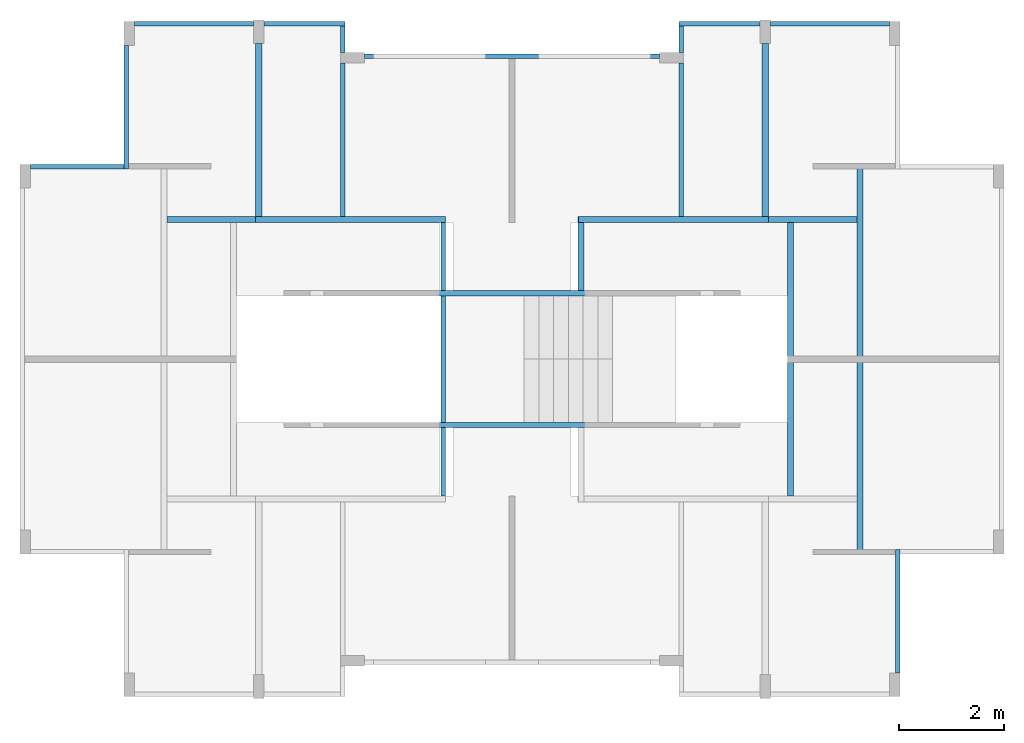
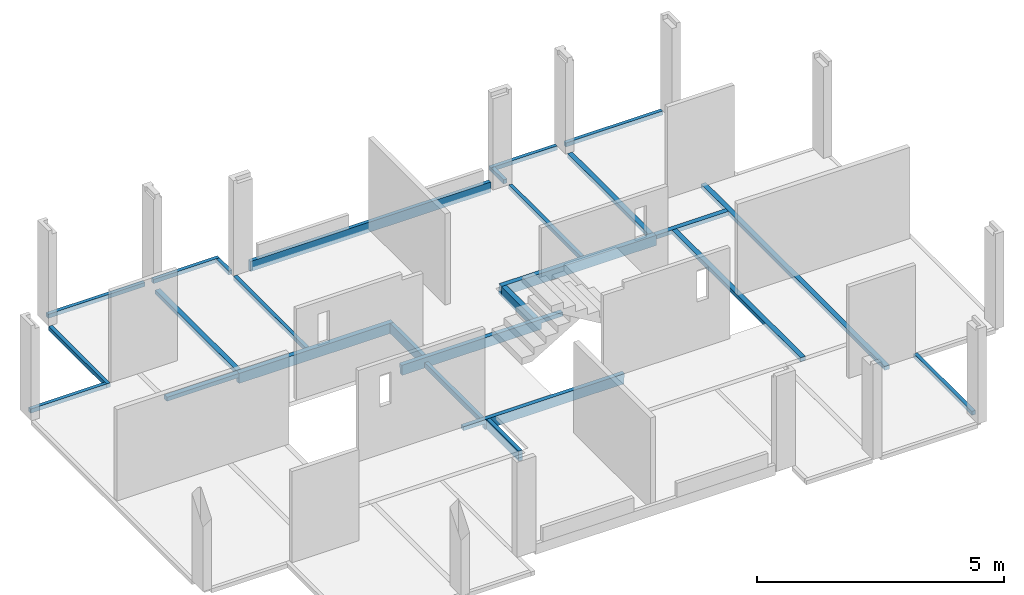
# One storey, part 2 of 6: 20 beams.
"""IFC4 building model written with IfcOpenShell, lengths in metres."""

from ifc_helpers import new_model, entity, si_unit, converted_unit, derived_unit, direction, frame, origin, place, context, subcontext, project, spatial, indexed_curve, outline, extrude, source, transform, mapped, material, type_object, type_shapes, element, save


model = new_model("IFC4")

# Units and contexts
model_context = context("Model", 3, precision=1e-05, world=origin(), true_north=direction((6.123031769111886e-17, 1.0)))
body_context = subcontext(model_context, "Body", "Model", "MODEL_VIEW")
ifc_project = project(units=[si_unit("LENGTHUNIT", "METRE"), si_unit("AREAUNIT", "SQUARE_METRE"), si_unit("VOLUMEUNIT", "CUBIC_METRE"), converted_unit("PLANEANGLEUNIT", "DEGREE", entity("IfcRatioMeasure", 0.017453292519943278), si_unit("PLANEANGLEUNIT", "RADIAN"), dimensions=[0, 0, 0, 0, 0, 0, 0]), si_unit("MASSUNIT", "GRAM", prefix="KILO"), derived_unit("MASSDENSITYUNIT", [(si_unit("MASSUNIT", "GRAM", prefix="KILO"), 1), (si_unit("LENGTHUNIT", "METRE"), -3)]), derived_unit("IONCONCENTRATIONUNIT", [(si_unit("MASSUNIT", "GRAM", prefix="KILO"), 1), (si_unit("LENGTHUNIT", "METRE"), -3)]), derived_unit("MOMENTOFINERTIAUNIT", [(si_unit("LENGTHUNIT", "METRE"), 4)]), si_unit("TIMEUNIT", "SECOND"), si_unit("FREQUENCYUNIT", "HERTZ"), si_unit("THERMODYNAMICTEMPERATUREUNIT", "DEGREE_CELSIUS"), derived_unit("THERMALTRANSMITTANCEUNIT", [(si_unit("MASSUNIT", "GRAM", prefix="KILO"), 1), (si_unit("THERMODYNAMICTEMPERATUREUNIT", "KELVIN"), -1), (si_unit("TIMEUNIT", "SECOND"), -3)]), derived_unit("THERMALCONDUCTANCEUNIT", [(si_unit("MASSUNIT", "GRAM", prefix="KILO"), 1), (si_unit("THERMODYNAMICTEMPERATUREUNIT", "KELVIN"), -1), (si_unit("TIMEUNIT", "SECOND"), -3), (si_unit("LENGTHUNIT", "METRE"), 1)]), derived_unit("VOLUMETRICFLOWRATEUNIT", [(si_unit("LENGTHUNIT", "METRE"), 3), (si_unit("TIMEUNIT", "SECOND"), -1)]), derived_unit("MASSFLOWRATEUNIT", [(si_unit("MASSUNIT", "GRAM", prefix="KILO"), 1), (si_unit("TIMEUNIT", "SECOND"), -1)]), derived_unit("ROTATIONALFREQUENCYUNIT", [(si_unit("TIMEUNIT", "SECOND"), -1)]), si_unit("ELECTRICCURRENTUNIT", "AMPERE"), si_unit("ELECTRICVOLTAGEUNIT", "VOLT"), si_unit("POWERUNIT", "WATT"), si_unit("FORCEUNIT", "NEWTON", prefix="KILO"), si_unit("ILLUMINANCEUNIT", "LUX"), si_unit("LUMINOUSFLUXUNIT", "LUMEN"), si_unit("LUMINOUSINTENSITYUNIT", "CANDELA"), derived_unit("USERDEFINED", [(si_unit("MASSUNIT", "GRAM", prefix="KILO"), -1), (si_unit("LENGTHUNIT", "METRE"), -2), (si_unit("TIMEUNIT", "SECOND"), 3), (si_unit("LUMINOUSFLUXUNIT", "LUMEN"), 1)]), derived_unit("USERDEFINED", [(si_unit("MASSUNIT", "GRAM", prefix="KILO"), 1), (si_unit("TIMEUNIT", "SECOND"), -3), (si_unit("LENGTHUNIT", "METRE"), 3), (si_unit("ELECTRICCURRENTUNIT", "AMPERE"), -2)]), derived_unit("SOUNDPOWERUNIT", [(si_unit("MASSUNIT", "GRAM", prefix="KILO"), 1), (si_unit("TIMEUNIT", "SECOND"), -3), (si_unit("LENGTHUNIT", "METRE"), 2)]), derived_unit("SOUNDPRESSUREUNIT", [(si_unit("MASSUNIT", "GRAM", prefix="KILO"), 1), (si_unit("LENGTHUNIT", "METRE"), -1), (si_unit("TIMEUNIT", "SECOND"), -2)]), derived_unit("LINEARVELOCITYUNIT", [(si_unit("LENGTHUNIT", "METRE"), 1), (si_unit("TIMEUNIT", "SECOND"), -1)]), si_unit("PRESSUREUNIT", "PASCAL"), derived_unit("USERDEFINED", [(si_unit("MASSUNIT", "GRAM", prefix="KILO"), 1), (si_unit("LENGTHUNIT", "METRE"), -2), (si_unit("TIMEUNIT", "SECOND"), -2)]), derived_unit("LINEARFORCEUNIT", [(si_unit("MASSUNIT", "GRAM", prefix="KILO"), 1), (si_unit("TIMEUNIT", "SECOND"), -2)]), derived_unit("PLANARFORCEUNIT", [(si_unit("MASSUNIT", "GRAM", prefix="KILO"), 1), (si_unit("LENGTHUNIT", "METRE"), -1), (si_unit("TIMEUNIT", "SECOND"), -2)]), derived_unit("SPECIFICHEATCAPACITYUNIT", [(si_unit("THERMODYNAMICTEMPERATUREUNIT", "KELVIN"), -1), (si_unit("LENGTHUNIT", "METRE"), 2), (si_unit("TIMEUNIT", "SECOND"), -2)]), derived_unit("HEATINGVALUEUNIT", [(si_unit("LENGTHUNIT", "METRE"), 2), (si_unit("TIMEUNIT", "SECOND"), -2)]), derived_unit("VAPORPERMEABILITYUNIT", [(si_unit("LENGTHUNIT", "METRE"), -1), (si_unit("TIMEUNIT", "SECOND"), 1)]), derived_unit("DYNAMICVISCOSITYUNIT", [(si_unit("MASSUNIT", "GRAM", prefix="KILO"), 1), (si_unit("TIMEUNIT", "SECOND"), -1), (si_unit("LENGTHUNIT", "METRE"), -1)]), derived_unit("THERMALEXPANSIONCOEFFICIENTUNIT", [(si_unit("THERMODYNAMICTEMPERATUREUNIT", "KELVIN"), -1)]), derived_unit("MODULUSOFELASTICITYUNIT", [(si_unit("MASSUNIT", "GRAM", prefix="KILO"), 1), (si_unit("LENGTHUNIT", "METRE"), -1), (si_unit("TIMEUNIT", "SECOND"), -2)]), derived_unit("ISOTHERMALMOISTURECAPACITYUNIT", [(si_unit("LENGTHUNIT", "METRE"), 3), (si_unit("MASSUNIT", "GRAM", prefix="KILO"), -1)]), derived_unit("MOISTUREDIFFUSIVITYUNIT", [(si_unit("TIMEUNIT", "SECOND"), -1), (si_unit("LENGTHUNIT", "METRE"), 2)])], contexts=[model_context])

# Site, building, storey
site_placement = place(None, origin())
site = spatial("IfcSite", under=ifc_project, at=site_placement, Name="Default", CompositionType="ELEMENT")
building_placement = place(site_placement, origin())
building = spatial("IfcBuilding", under=site, at=building_placement, Name="Las nubes", CompositionType="ELEMENT")
storey_placement = place(building_placement, frame((0.0, 0.0, 9.400000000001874)))
storey = spatial("IfcBuildingStorey", under=building, at=storey_placement, Name="PISO 5", CompositionType="ELEMENT", Elevation=9.400000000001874)

# Beams
ifc_material_1 = material(Name="Concrete - Cast-in-Place Concrete - 35 MPa", Category="Materials")
beam_type_1 = type_object("IfcBeamType", Name="M_Concrete-Rectangular Beam:(0.10x0.25)", PredefinedType="BEAM", material=ifc_material_1)
shared_shape_1 = source(origin(), body_context, "Body", "SweptSolid", [
    extrude(outline(indexed_curve([(-1.9263636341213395, -0.0977272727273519), (-1.4263636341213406, -0.0977272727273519), (-1.4213636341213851, -0.0977272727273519), (-1.3913636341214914, -0.0977272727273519), (-1.3063636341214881, -0.0977272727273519), (-1.166363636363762, -0.0977272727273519), (1.073636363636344, -0.0977272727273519), (1.208636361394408, -0.0977272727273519), (1.3236363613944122, -0.0977272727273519), (1.3286363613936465, -0.0977272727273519), (1.8336363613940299, -0.0977272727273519), (1.8336363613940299, 0.002272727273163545), (1.823636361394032, 0.002272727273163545), (1.823636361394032, 0.15227272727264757), (1.3336363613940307, 0.15227272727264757), (1.3236363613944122, 0.15227272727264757), (1.208636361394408, 0.15227272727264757), (-1.306363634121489, 0.15227272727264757), (-1.3913636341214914, 0.15227272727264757), (-1.4263636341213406, 0.15227272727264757), (-1.4263636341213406, 0.002272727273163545), (-1.9263636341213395, 0.0022727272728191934), (-1.9263636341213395, -0.0977272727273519)], self_intersect=False)), frame((9.368863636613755, -7.725000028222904, 9.302272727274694), z_axis=(0.0, 1.0, 0.0), x_axis=(1.0, 0.0, 0.0)), (0.0, 0.0, 1.0), 0.10000000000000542),
])
type_shapes(beam_type_1, [shared_shape_1])
beam_1_placement = place(storey_placement, frame((0.0, 0.0, -9.400000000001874)))
element("IfcBeam", 1, at=beam_1_placement, inside=storey, type_object=beam_type_1, material=ifc_material_1, Name="M_Concrete-Rectangular Beam:(0.10x0.25)", ObjectType="M_Concrete-Rectangular Beam:(0.10x0.25)", PredefinedType="BEAM", context=body_context, shape_type="MappedRepresentation", body=[
    mapped(shared_shape_1, transform((0.0, 0.0, 0.0), scale=1.0)),
])
beam_type_2 = type_object("IfcBeamType", Name="M_Concrete-Rectangular Beam:(0.10x0.25)", PredefinedType="BEAM", material=ifc_material_1)
shared_shape_2 = source(origin(), body_context, "Body", "SweptSolid", [
    extrude(outline(indexed_curve([(-0.11000000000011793, -2.285333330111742), (-0.00999999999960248, -2.285333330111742), (-0.00999999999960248, -1.785333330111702), (0.13999999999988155, -1.785333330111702), (0.13999999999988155, 0.8546666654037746), (0.13999999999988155, 0.9396666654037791), (0.13999999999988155, 0.9746666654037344), (0.13999999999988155, 1.4646666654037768), (-0.00999999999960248, 1.4646666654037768), (-0.009999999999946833, 1.4746666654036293), (-0.11000000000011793, 1.4746666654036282), (-0.11000000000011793, 0.9746666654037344), (-0.11000000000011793, 0.9396666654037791), (-0.11000000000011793, -0.6353333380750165), (-0.11000000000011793, -1.785333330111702), (-0.11000000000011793, -2.285333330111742)], self_intersect=False)), frame((8.917166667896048, -5.22500002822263, 9.290000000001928), z_axis=(0.0, 1.0, 0.0), x_axis=(0.0, 0.0, -1.0)), (0.0, 0.0, 1.0), 0.10000000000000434),
])
type_shapes(beam_type_2, [shared_shape_2])
beam_2_placement = place(storey_placement, frame((0.0, 0.0, -9.400000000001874)))
element("IfcBeam", 2, at=beam_2_placement, inside=storey, type_object=beam_type_2, material=ifc_material_1, Name="M_Concrete-Rectangular Beam:(0.10x0.25)", ObjectType="M_Concrete-Rectangular Beam:(0.10x0.25)", PredefinedType="BEAM", context=body_context, shape_type="MappedRepresentation", body=[
    mapped(shared_shape_2, transform((0.0, 0.0, 0.0), scale=1.0)),
])
ifc_material_2 = material(Name="Concrete, Cast In Situ", Category="Materials")
beam_type_3 = type_object("IfcBeamType", Name="M_Concrete-Rectangular Beam:(0.085x0.10)", PredefinedType="BEAM", material=ifc_material_2)
shared_shape_3 = source(origin(), body_context, "Body", "SweptSolid", [
    extrude(outline(indexed_curve([(-0.04250000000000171, -0.050000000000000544), (0.04250000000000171, -0.050000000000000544), (0.04250000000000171, 0.04999999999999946), (-0.04250000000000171, 0.04999999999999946), (-0.04250000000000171, -0.050000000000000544)], self_intersect=False)), frame((1.9899999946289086, -2.810000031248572, 9.350000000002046), z_axis=(0.0, 1.0, 0.0), x_axis=(-1.0, 0.0, 0.0)), (0.0, 0.0, 1.0), 2.3500000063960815),
])
type_shapes(beam_type_3, [shared_shape_3])
beam_3_placement = place(storey_placement, frame((0.0, 0.0, -9.400000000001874)))
element("IfcBeam", 3, at=beam_3_placement, inside=storey, type_object=beam_type_3, material=ifc_material_2, Name="M_Concrete-Rectangular Beam:(0.085x0.10)", ObjectType="M_Concrete-Rectangular Beam:(0.085x0.10)", PredefinedType="BEAM", context=body_context, shape_type="MappedRepresentation", body=[
    mapped(shared_shape_3, transform((0.0, 0.0, 0.0), scale=1.0)),
])
beam_type_4 = type_object("IfcBeamType", Name="M_Concrete-Rectangular Beam:(0.085x0.10)", PredefinedType="BEAM", material=ifc_material_2)
shared_shape_4 = source(origin(), body_context, "Body", "SweptSolid", [
    extrude(outline(indexed_curve([(-0.042500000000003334, -0.050000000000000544), (0.042499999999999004, -0.050000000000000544), (0.042499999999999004, 0.04999999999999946), (-0.042500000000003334, 0.04999999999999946), (-0.042500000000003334, -0.050000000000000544)], self_intersect=False)), frame((16.655000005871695, -12.390000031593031, 9.350000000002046), z_axis=(0.0, 1.0, 0.0), x_axis=(-1.0, 0.0, 0.0)), (0.0, 0.0, 1.0), 2.3500028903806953),
])
type_shapes(beam_type_4, [shared_shape_4])
beam_4_placement = place(storey_placement, frame((0.0, 0.0, -9.400000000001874)))
element("IfcBeam", 4, at=beam_4_placement, inside=storey, type_object=beam_type_4, material=ifc_material_2, Name="M_Concrete-Rectangular Beam:(0.085x0.10)", ObjectType="M_Concrete-Rectangular Beam:(0.085x0.10)", PredefinedType="BEAM", context=body_context, shape_type="MappedRepresentation", body=[
    mapped(shared_shape_4, transform((0.0, 0.0, 0.0), scale=1.0)),
])
beam_type_5 = type_object("IfcBeamType", Name="M_Concrete-Rectangular Beam:(0.085x0.25)", PredefinedType="BEAM", material=ifc_material_2)
shared_shape_5 = source(origin(), body_context, "Body", "SweptSolid", [
    extrude(outline(indexed_curve([(-0.04250000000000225, -0.12499999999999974), (0.04250000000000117, -0.12499999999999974), (0.04250000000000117, 0.12499999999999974), (-0.04250000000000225, 0.12499999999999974), (-0.04250000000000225, -0.12499999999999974)], self_intersect=False)), frame((8.020000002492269, -5.125000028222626, 9.275000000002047), z_axis=(0.0, 1.0, 0.0), x_axis=(-1.0, 0.0, 0.0)), (0.0, 0.0, 1.0), 1.3000000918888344),
    extrude(outline(indexed_curve([(-0.04250000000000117, -0.12499999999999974), (0.04250000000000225, -0.12499999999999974), (0.04250000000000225, 0.12499999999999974), (-0.04250000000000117, 0.12499999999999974), (-0.04250000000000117, -0.12499999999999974)], self_intersect=False)), frame((8.020000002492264, -9.025000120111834, 9.275000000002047), z_axis=(0.0, 1.0, 0.0), x_axis=(-1.0, 0.0, 0.0)), (0.0, 0.0, 1.0), 1.3000000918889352),
    extrude(outline(indexed_curve([(-0.04250000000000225, -0.06499999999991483), (0.04250000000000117, -0.06499999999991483), (0.042500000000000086, 0.06499999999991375), (-0.04250000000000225, 0.06499999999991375), (-0.04250000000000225, -0.06499999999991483)], self_intersect=False)), frame((8.020000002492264, -7.6250000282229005, 9.215000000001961), z_axis=(0.0, 1.0, 0.0), x_axis=(-1.0, 0.0, 0.0)), (0.0, 0.0, 1.0), 2.4000000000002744),
])
type_shapes(beam_type_5, [shared_shape_5])
beam_5_placement = place(storey_placement, frame((0.0, 0.0, -9.400000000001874)))
element("IfcBeam", 5, at=beam_5_placement, inside=storey, type_object=beam_type_5, material=ifc_material_2, Name="M_Concrete-Rectangular Beam:(0.085x0.25)", ObjectType="M_Concrete-Rectangular Beam:(0.085x0.25)", PredefinedType="BEAM", context=body_context, shape_type="MappedRepresentation", body=[
    mapped(shared_shape_5, transform((0.0, 0.0, 0.0), scale=1.0)),
])
beam_type_6 = type_object("IfcBeamType", Name="M_Concrete-Rectangular Beam:(0.115x0.25)", PredefinedType="BEAM", material=ifc_material_2)
shared_shape_6 = source(origin(), body_context, "Body", "SweptSolid", [
    extrude(outline(indexed_curve([(-0.12500000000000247, -0.05749999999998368), (0.124999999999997, -0.0575000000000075), (0.12500000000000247, 0.05749999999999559), (-0.124999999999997, 0.0575000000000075), (-0.12500000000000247, -0.05749999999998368)], self_intersect=False)), frame((8.062500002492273, -3.7674999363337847, 9.275000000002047), z_axis=(-1.0, 0.0, 0.0), x_axis=(0.0, 0.0, -1.0)), (0.0, 0.0, 1.0), 3.610000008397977),
])
type_shapes(beam_type_6, [shared_shape_6])
beam_6_placement = place(storey_placement, frame((0.0, 0.0, -9.400000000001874)))
element("IfcBeam", 6, at=beam_6_placement, inside=storey, type_object=beam_type_6, material=ifc_material_2, Name="M_Concrete-Rectangular Beam:(0.115x0.25)", ObjectType="M_Concrete-Rectangular Beam:(0.115x0.25)", PredefinedType="BEAM", context=body_context, shape_type="MappedRepresentation", body=[
    mapped(shared_shape_6, transform((0.0, 0.0, 0.0), scale=1.0)),
])
beam_type_7 = type_object("IfcBeamType", Name="M_Concrete-Rectangular Beam:(0.115x0.25)", PredefinedType="BEAM", material=ifc_material_2)
shared_shape_7 = source(origin(), body_context, "Body", "SweptSolid", [
    extrude(outline(indexed_curve([(-0.14499999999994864, -1.1205000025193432), (0.004999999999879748, -1.1205000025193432), (0.004999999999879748, -1.1155000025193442), (0.10500000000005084, -1.1155000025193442), (0.10500000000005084, -1.005500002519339), (0.10500000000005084, -1.000500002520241), (0.10500000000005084, 2.494500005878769), (0.004999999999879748, 2.494500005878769), (-0.14499999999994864, 2.494500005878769), (-0.14499999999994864, -1.005500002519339), (-0.14499999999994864, -1.1205000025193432)], self_intersect=False)), frame((11.698000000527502, -3.824999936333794, 9.295000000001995), z_axis=(0.0, 1.0, 0.0), x_axis=(0.0, 0.0, 1.0)), (0.0, 0.0, 1.0), 0.1150000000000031),
])
type_shapes(beam_type_7, [shared_shape_7])
beam_7_placement = place(storey_placement, frame((0.0, 0.0, -9.400000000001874)))
element("IfcBeam", 7, at=beam_7_placement, inside=storey, type_object=beam_type_7, material=ifc_material_2, Name="M_Concrete-Rectangular Beam:(0.115x0.25)", ObjectType="M_Concrete-Rectangular Beam:(0.115x0.25)", PredefinedType="BEAM", context=body_context, shape_type="MappedRepresentation", body=[
    mapped(shared_shape_7, transform((0.0, 0.0, 0.0), scale=1.0)),
])
beam_type_8 = type_object("IfcBeamType", Name="M_Concrete-Rectangular Beam:(0.115x0.25)", PredefinedType="BEAM", material=ifc_material_2)
shared_shape_8 = source(origin(), body_context, "Body", "SweptSolid", [
    extrude(outline(indexed_curve([(-0.05750000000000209, -0.12499999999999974), (0.05750000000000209, -0.12499999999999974), (0.05750000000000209, 0.12499999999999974), (-0.05750000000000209, 0.12499999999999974), (-0.05750000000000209, -0.12499999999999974)], self_intersect=False)), frame((10.634999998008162, -5.125000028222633, 9.275000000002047), z_axis=(0.0, 1.0, 0.0), x_axis=(-1.0, 0.0, 0.0)), (0.0, 0.0, 1.0), 1.3000000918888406),
])
type_shapes(beam_type_8, [shared_shape_8])
beam_8_placement = place(storey_placement, frame((0.0, 0.0, -9.400000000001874)))
element("IfcBeam", 8, at=beam_8_placement, inside=storey, type_object=beam_type_8, material=ifc_material_2, Name="M_Concrete-Rectangular Beam:(0.115x0.25)", ObjectType="M_Concrete-Rectangular Beam:(0.115x0.25)", PredefinedType="BEAM", context=body_context, shape_type="MappedRepresentation", body=[
    mapped(shared_shape_8, transform((0.0, 0.0, 0.0), scale=1.0)),
])
beam_type_9 = type_object("IfcBeamType", Name="M_Concrete-Rectangular Beam:(0.085x0.25)", PredefinedType="BEAM", material=ifc_material_1)
shared_shape_9 = source(origin(), body_context, "Body", "SweptSolid", [
    extrude(outline(indexed_curve([(-0.12500000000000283, -0.042499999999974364), (0.12499999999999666, -0.04250000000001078), (0.12500000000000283, 0.04249999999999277), (-0.12499999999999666, 0.04250000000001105), (-0.12500000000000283, -0.042499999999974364)], self_intersect=False)), frame((6.517499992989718, -0.6675000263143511, 9.425000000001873), z_axis=(1.0, 0.0, 0.0), x_axis=(0.0, 0.0, -1.0)), (0.0, 0.0, 1.0), 5.610000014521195),
])
type_shapes(beam_type_9, [shared_shape_9])
beam_9_placement = place(storey_placement, frame((0.0, 0.0, -9.400000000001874)))
element("IfcBeam", 9, at=beam_9_placement, inside=storey, type_object=beam_type_9, material=ifc_material_1, Name="M_Concrete-Rectangular Beam:(0.085x0.25)", ObjectType="M_Concrete-Rectangular Beam:(0.085x0.25)", PredefinedType="BEAM", context=body_context, shape_type="MappedRepresentation", body=[
    mapped(shared_shape_9, transform((0.0, 0.0, 0.0), scale=1.0)),
])
beam_type_10 = type_object("IfcBeamType", Name="M_Concrete-Rectangular Beam:(0.115x0.10)", PredefinedType="BEAM", material=ifc_material_2)
shared_shape_10 = source(origin(), body_context, "Body", "SweptSolid", [
    extrude(outline(indexed_curve([(-0.05750000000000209, -0.050000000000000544), (0.05750000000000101, -0.050000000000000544), (0.05750000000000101, 0.04999999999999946), (-0.05750000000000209, 0.04999999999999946), (-0.05750000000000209, -0.050000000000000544)], self_intersect=False)), frame((4.5099999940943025, -0.4300000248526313, 9.350000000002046), z_axis=(0.0, -1.0, 0.0), x_axis=(-1.0, 0.0, 0.0)), (0.0, 0.0, 1.0), 3.2799999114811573),
])
type_shapes(beam_type_10, [shared_shape_10])
beam_10_placement = place(storey_placement, frame((0.0, 0.0, -9.400000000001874)))
element("IfcBeam", 10, at=beam_10_placement, inside=storey, type_object=beam_type_10, material=ifc_material_2, Name="M_Concrete-Rectangular Beam:(0.115x0.10)", ObjectType="M_Concrete-Rectangular Beam:(0.115x0.10)", PredefinedType="BEAM", context=body_context, shape_type="MappedRepresentation", body=[
    mapped(shared_shape_10, transform((0.0, 0.0, 0.0), scale=1.0)),
])
beam_type_11 = type_object("IfcBeamType", Name="M_Concrete-Rectangular Beam:(0.115x0.10)", PredefinedType="BEAM", material=ifc_material_2)
shared_shape_11 = source(origin(), body_context, "Body", "SweptSolid", [
    extrude(outline(indexed_curve([(-0.05000000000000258, -0.057499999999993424), (0.049999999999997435, -0.057500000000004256), (0.05000000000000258, 0.057499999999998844), (-0.049999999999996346, 0.057500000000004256), (-0.05000000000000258, -0.057499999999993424)], self_intersect=False)), frame((4.452499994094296, -3.7675000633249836, 9.350000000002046), z_axis=(-1.0, 0.0, 0.0), x_axis=(0.0, 0.0, -1.0)), (0.0, 0.0, 1.0), 1.6849989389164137),
])
type_shapes(beam_type_11, [shared_shape_11])
beam_11_placement = place(storey_placement, frame((0.0, 0.0, -9.400000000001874)))
element("IfcBeam", 11, at=beam_11_placement, inside=storey, type_object=beam_type_11, material=ifc_material_2, Name="M_Concrete-Rectangular Beam:(0.115x0.10)", ObjectType="M_Concrete-Rectangular Beam:(0.115x0.10)", PredefinedType="BEAM", context=body_context, shape_type="MappedRepresentation", body=[
    mapped(shared_shape_11, transform((0.0, 0.0, 0.0), scale=1.0)),
])
beam_type_12 = type_object("IfcBeamType", Name="M_Concrete-Rectangular Beam:(0.115x0.10)", PredefinedType="BEAM", material=ifc_material_2)
shared_shape_12 = source(origin(), body_context, "Body", "SweptSolid", [
    extrude(outline(indexed_curve([(-0.057500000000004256, -0.050000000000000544), (0.05750000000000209, -0.050000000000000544), (0.05750000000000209, 0.04999999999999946), (-0.05750000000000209, 0.04999999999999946), (-0.057500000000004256, -0.050000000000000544)], self_intersect=False)), frame((15.934998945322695, -10.14000003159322, 9.350000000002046), z_axis=(0.0, 1.0, 0.0), x_axis=(-1.0, 0.0, 0.0)), (0.0, 0.0, 1.0), 7.430000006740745),
])
type_shapes(beam_type_12, [shared_shape_12])
beam_12_placement = place(storey_placement, frame((0.0, 0.0, -9.400000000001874)))
element("IfcBeam", 12, at=beam_12_placement, inside=storey, type_object=beam_type_12, material=ifc_material_2, Name="M_Concrete-Rectangular Beam:(0.115x0.10)", ObjectType="M_Concrete-Rectangular Beam:(0.115x0.10)", PredefinedType="BEAM", context=body_context, shape_type="MappedRepresentation", body=[
    mapped(shared_shape_12, transform((0.0, 0.0, 0.0), scale=1.0)),
])
beam_type_13 = type_object("IfcBeamType", Name="M_Concrete-Rectangular Beam:(0.115x0.10)", PredefinedType="BEAM", material=ifc_material_2)
shared_shape_13 = source(origin(), body_context, "Body", "SweptSolid", [
    extrude(outline(indexed_curve([(-0.05750000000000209, -0.050000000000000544), (0.05750000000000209, -0.050000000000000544), (0.05750000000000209, 0.04999999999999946), (-0.05750000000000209, 0.04999999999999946), (-0.05750000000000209, -0.050000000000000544)], self_intersect=False)), frame((14.615000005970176, -9.025000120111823, 9.350000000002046), z_axis=(0.0, 1.0, 0.0), x_axis=(-1.0, 0.0, 0.0)), (0.0, 0.0, 1.0), 5.200000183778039),
])
type_shapes(beam_type_13, [shared_shape_13])
beam_13_placement = place(storey_placement, frame((0.0, 0.0, -9.400000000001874)))
element("IfcBeam", 13, at=beam_13_placement, inside=storey, type_object=beam_type_13, material=ifc_material_2, Name="M_Concrete-Rectangular Beam:(0.115x0.10)", ObjectType="M_Concrete-Rectangular Beam:(0.115x0.10)", PredefinedType="BEAM", context=body_context, shape_type="MappedRepresentation", body=[
    mapped(shared_shape_13, transform((0.0, 0.0, 0.0), scale=1.0)),
])
beam_type_14 = type_object("IfcBeamType", Name="M_Concrete-Rectangular Beam:(0.115x0.10)", PredefinedType="BEAM", material=ifc_material_2)
shared_shape_14 = source(origin(), body_context, "Body", "SweptSolid", [
    extrude(outline(indexed_curve([(-0.05000000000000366, -0.057499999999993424), (0.049999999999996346, -0.057500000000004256), (0.05000000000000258, 0.057499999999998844), (-0.049999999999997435, 0.057500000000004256), (-0.05000000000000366, -0.057499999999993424)], self_intersect=False)), frame((14.192500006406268, -3.7675000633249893, 9.350000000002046), z_axis=(1.0, 0.0, 0.0), x_axis=(0.0, 0.0, -1.0)), (0.0, 0.0, 1.0), 1.6849989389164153),
])
type_shapes(beam_type_14, [shared_shape_14])
beam_14_placement = place(storey_placement, frame((0.0, 0.0, -9.400000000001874)))
element("IfcBeam", 14, at=beam_14_placement, inside=storey, type_object=beam_type_14, material=ifc_material_2, Name="M_Concrete-Rectangular Beam:(0.115x0.10)", ObjectType="M_Concrete-Rectangular Beam:(0.115x0.10)", PredefinedType="BEAM", context=body_context, shape_type="MappedRepresentation", body=[
    mapped(shared_shape_14, transform((0.0, 0.0, 0.0), scale=1.0)),
])
beam_type_15 = type_object("IfcBeamType", Name="M_Concrete-Rectangular Beam:(0.115x0.10)", PredefinedType="BEAM", material=ifc_material_2)
shared_shape_15 = source(origin(), body_context, "Body", "SweptSolid", [
    extrude(outline(indexed_curve([(-0.057499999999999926, -0.050000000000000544), (0.05750000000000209, -0.050000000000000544), (0.057500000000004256, 0.04999999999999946), (-0.05750000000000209, 0.04999999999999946), (-0.057499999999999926, -0.050000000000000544)], self_intersect=False)), frame((14.135000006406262, -0.4300000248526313, 9.350000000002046), z_axis=(0.0, -1.0, 0.0), x_axis=(-1.0, 0.0, 0.0)), (0.0, 0.0, 1.0), 3.2799999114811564),
])
type_shapes(beam_type_15, [shared_shape_15])
beam_15_placement = place(storey_placement, frame((0.0, 0.0, -9.400000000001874)))
element("IfcBeam", 15, at=beam_15_placement, inside=storey, type_object=beam_type_15, material=ifc_material_2, Name="M_Concrete-Rectangular Beam:(0.115x0.10)", ObjectType="M_Concrete-Rectangular Beam:(0.115x0.10)", PredefinedType="BEAM", context=body_context, shape_type="MappedRepresentation", body=[
    mapped(shared_shape_15, transform((0.0, 0.0, 0.0), scale=1.0)),
])
beam_type_16 = type_object("IfcBeamType", Name="M_Concrete-Rectangular Beam:(0.085x0.10)", PredefinedType="BEAM", material=ifc_material_2)
shared_shape_16 = source(origin(), body_context, "Body", "SweptSolid", [
    extrude(outline(indexed_curve([(-0.05000000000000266, -0.0424999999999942), (0.049999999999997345, -0.04250000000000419), (0.05000000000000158, 0.0424999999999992), (-0.04999999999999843, 0.04250000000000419), (-0.05000000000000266, -0.0424999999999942)], self_intersect=False)), frame((14.035000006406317, -0.05250003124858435, 9.350000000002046), z_axis=(-1.0, 0.0, 0.0), x_axis=(0.0, 0.0, -1.0)), (0.0, 0.0, 1.0), 1.5424999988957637),
    extrude(outline(indexed_curve([(-0.05000000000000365, -0.042499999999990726), (0.04999999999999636, -0.042500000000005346), (0.05000000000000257, 0.04249999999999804), (-0.04999999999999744, 0.042500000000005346), (-0.05000000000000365, -0.042499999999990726)], self_intersect=False)), frame((16.497500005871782, -0.05250003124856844, 9.350000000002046), z_axis=(-1.0, 0.0, 0.0), x_axis=(0.0, 0.0, -1.0)), (0.0, 0.0, 1.0), 2.2624999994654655),
])
type_shapes(beam_type_16, [shared_shape_16])
beam_16_placement = place(storey_placement, frame((0.0, 0.0, -9.400000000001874)))
element("IfcBeam", 16, at=beam_16_placement, inside=storey, type_object=beam_type_16, material=ifc_material_2, Name="M_Concrete-Rectangular Beam:(0.085x0.10)", ObjectType="M_Concrete-Rectangular Beam:(0.085x0.10)", PredefinedType="BEAM", context=body_context, shape_type="MappedRepresentation", body=[
    mapped(shared_shape_16, transform((0.0, 0.0, 0.0), scale=1.0)),
])
beam_type_17 = type_object("IfcBeamType", Name="M_Concrete-Rectangular Beam:(0.085x0.10)", PredefinedType="BEAM", material=ifc_material_2)
shared_shape_17 = source(origin(), body_context, "Body", "SweptSolid", [
    extrude(outline(indexed_curve([(-0.04250000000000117, -0.050000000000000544), (0.04250000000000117, -0.050000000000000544), (0.04250000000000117, 0.04999999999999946), (-0.04250000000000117, 0.04999999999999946), (-0.04250000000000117, -0.050000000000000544)], self_intersect=False)), frame((12.535000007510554, -0.7950000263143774, 9.350000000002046), z_axis=(0.0, -1.0, 0.0), x_axis=(-1.0, 0.0, 0.0)), (0.0, 0.0, 1.0), 2.914999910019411),
    extrude(outline(indexed_curve([(-0.04250000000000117, -0.050000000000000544), (0.04250000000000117, -0.050000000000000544), (0.04250000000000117, 0.04999999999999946), (-0.04250000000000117, 0.04999999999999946), (-0.04250000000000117, -0.050000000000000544)], self_intersect=False)), frame((12.535000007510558, -0.09500002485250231, 9.350000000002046), z_axis=(0.0, -1.0, 0.0), x_axis=(-1.0, 0.0, 0.0)), (0.0, 0.0, 1.0), 0.5000000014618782),
])
type_shapes(beam_type_17, [shared_shape_17])
beam_17_placement = place(storey_placement, frame((0.0, 0.0, -9.400000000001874)))
element("IfcBeam", 17, at=beam_17_placement, inside=storey, type_object=beam_type_17, material=ifc_material_2, Name="M_Concrete-Rectangular Beam:(0.085x0.10)", ObjectType="M_Concrete-Rectangular Beam:(0.085x0.10)", PredefinedType="BEAM", context=body_context, shape_type="MappedRepresentation", body=[
    mapped(shared_shape_17, transform((0.0, 0.0, 0.0), scale=1.0)),
])
beam_type_18 = type_object("IfcBeamType", Name="M_Concrete-Rectangular Beam:(0.085x0.10)", PredefinedType="BEAM", material=ifc_material_2)
shared_shape_18 = source(origin(), body_context, "Body", "SweptSolid", [
    extrude(outline(indexed_curve([(-0.05000000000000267, -0.042499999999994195), (0.04999999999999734, -0.04250000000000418), (0.050000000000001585, 0.0424999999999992), (-0.04999999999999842, 0.04250000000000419), (-0.05000000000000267, -0.042499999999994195)], self_intersect=False)), frame((4.609999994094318, -0.05247950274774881, 9.350000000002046), z_axis=(1.0, 0.0, 0.0), x_axis=(0.0, 0.0, -1.0)), (0.0, 0.0, 1.0), 1.5424999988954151),
    extrude(outline(indexed_curve([(-0.05000000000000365, -0.042499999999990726), (0.04999999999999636, -0.042500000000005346), (0.05000000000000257, 0.04249999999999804), (-0.04999999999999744, 0.042500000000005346), (-0.05000000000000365, -0.042499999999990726)], self_intersect=False)), frame((2.14749999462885, -0.05247950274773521, 9.350000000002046), z_axis=(1.0, 0.0, 0.0), x_axis=(0.0, 0.0, -1.0)), (0.0, 0.0, 1.0), 2.2624999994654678),
])
type_shapes(beam_type_18, [shared_shape_18])
beam_18_placement = place(storey_placement, frame((0.0, 0.0, -9.400000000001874)))
element("IfcBeam", 18, at=beam_18_placement, inside=storey, type_object=beam_type_18, material=ifc_material_2, Name="M_Concrete-Rectangular Beam:(0.085x0.10)", ObjectType="M_Concrete-Rectangular Beam:(0.085x0.10)", PredefinedType="BEAM", context=body_context, shape_type="MappedRepresentation", body=[
    mapped(shared_shape_18, transform((0.0, 0.0, 0.0), scale=1.0)),
])
beam_type_19 = type_object("IfcBeamType", Name="M_Concrete-Rectangular Beam:(0.085x0.10)", PredefinedType="BEAM", material=ifc_material_2)
shared_shape_19 = source(origin(), body_context, "Body", "SweptSolid", [
    extrude(outline(indexed_curve([(-0.04250000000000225, -0.04999999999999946), (0.04250000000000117, -0.04999999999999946), (0.04250000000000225, 0.050000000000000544), (-0.04250000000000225, 0.04999999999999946), (-0.04250000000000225, -0.04999999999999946)], self_intersect=False)), frame((6.109999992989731, -0.09497950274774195, 9.350000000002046), z_axis=(0.0, -1.0, 0.0), x_axis=(-1.0, 0.0, 0.0)), (0.0, 0.0, 1.0), 0.5000205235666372),
    extrude(outline(indexed_curve([(-0.04250000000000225, -0.04999999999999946), (0.04250000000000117, -0.04999999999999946), (0.04250000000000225, 0.050000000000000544), (-0.04250000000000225, 0.04999999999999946), (-0.04250000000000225, -0.04999999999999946)], self_intersect=False)), frame((6.10999999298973, -0.7950000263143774, 9.350000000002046), z_axis=(0.0, -1.0, 0.0), x_axis=(-1.0, 0.0, 0.0)), (0.0, 0.0, 1.0), 2.914999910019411),
])
type_shapes(beam_type_19, [shared_shape_19])
beam_19_placement = place(storey_placement, frame((0.0, 0.0, -9.400000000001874)))
element("IfcBeam", 19, at=beam_19_placement, inside=storey, type_object=beam_type_19, material=ifc_material_2, Name="M_Concrete-Rectangular Beam:(0.085x0.10)", ObjectType="M_Concrete-Rectangular Beam:(0.085x0.10)", PredefinedType="BEAM", context=body_context, shape_type="MappedRepresentation", body=[
    mapped(shared_shape_19, transform((0.0, 0.0, 0.0), scale=1.0)),
])
beam_type_20 = type_object("IfcBeamType", Name="M_Concrete-Rectangular Beam:(0.085x0.10)", PredefinedType="BEAM", material=ifc_material_2)
shared_shape_20 = source(origin(), body_context, "Body", "SweptSolid", [
    extrude(outline(indexed_curve([(-0.05000000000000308, -0.042499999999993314), (0.049999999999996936, -0.04250000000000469), (0.050000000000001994, 0.04249999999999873), (-0.04999999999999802, 0.04250000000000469), (-0.05000000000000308, -0.042499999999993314)], self_intersect=False)), frame((0.17250000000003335, -2.7675000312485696, 9.350000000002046), z_axis=(1.0, 0.0, 0.0), x_axis=(0.0, 0.0, -1.0)), (0.0, 0.0, 1.0), 1.7749999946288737),
])
type_shapes(beam_type_20, [shared_shape_20])
beam_20_placement = place(storey_placement, frame((0.0, 0.0, -9.400000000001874)))
element("IfcBeam", 20, at=beam_20_placement, inside=storey, type_object=beam_type_20, material=ifc_material_2, Name="M_Concrete-Rectangular Beam:(0.085x0.10)", ObjectType="M_Concrete-Rectangular Beam:(0.085x0.10)", PredefinedType="BEAM", context=body_context, shape_type="MappedRepresentation", body=[
    mapped(shared_shape_20, transform((0.0, 0.0, 0.0), scale=1.0)),
])

save(model, "model.ifc")
